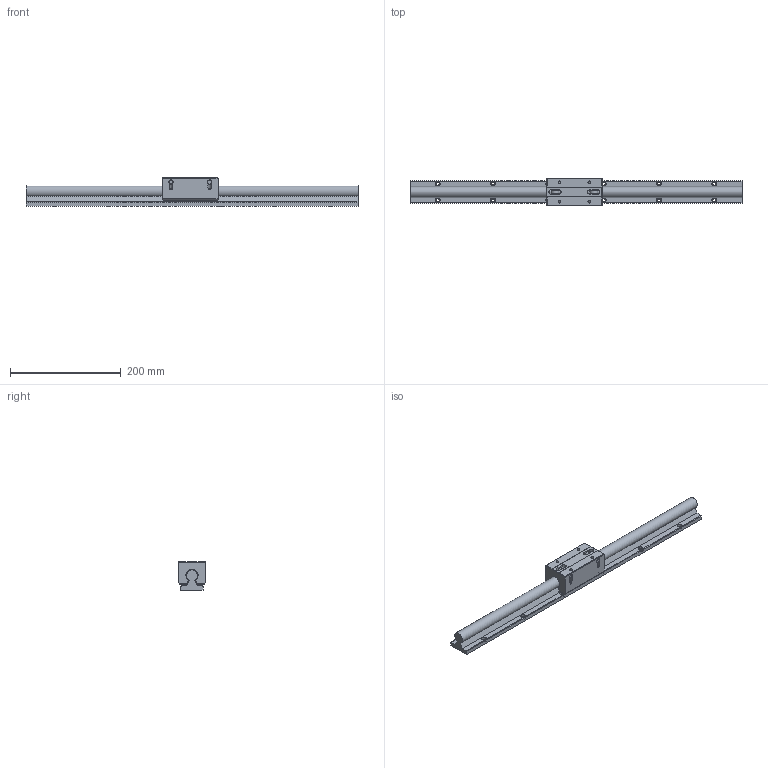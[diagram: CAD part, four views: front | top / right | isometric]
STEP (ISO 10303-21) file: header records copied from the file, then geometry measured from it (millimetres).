
FILE_DESCRIPTION((''),'2;1');
FILE_NAME('D:\製品 (図面)\カタログ用3D\リニアガイド関連\STEP形式\SLGW\SLGW20.stp','2010-06-02T16:57:33',('Tsuchiya'),(''),'Autodesk Inventor 10','Autodesk Inventor 10','');
FILE_SCHEMA(('AUTOMOTIVE_DESIGN { 1 0 10303 214 1 1 1 1 }'));
Length unit declared in the file: millimetre
Products named in the file (3): SLGW20; SLGW201; SLGW202
Assembly tree (2 placements, depth 2):
  SLGW20
    SLGW201
    SLGW202
Bounding box: 600 x 50 x 52 mm (x, y, z)
Volume: 595504.8 mm3; surface area: 127406.8 mm2
Topology: 2 solids, 2 shells, 239 faces, 589 edges, 382 vertices
Faces by surface type: bspline 109, plane 76, cylinder 31, cone 20, torus 3
Full cylindrical faces by diameter (mm): 4.917 x2, 5 x3, 5.5 x3, 6.5 x3, 8 x3, 14 x3
Entity records: 7692 total; most frequent: CARTESIAN_POINT 2902, ORIENTED_EDGE 918, DIRECTION 849, EDGE_CURVE 459, EDGE_LOOP 391, VERTEX_POINT 344, AXIS2_PLACEMENT_3D 321, FACE_OUTER_BOUND 239
